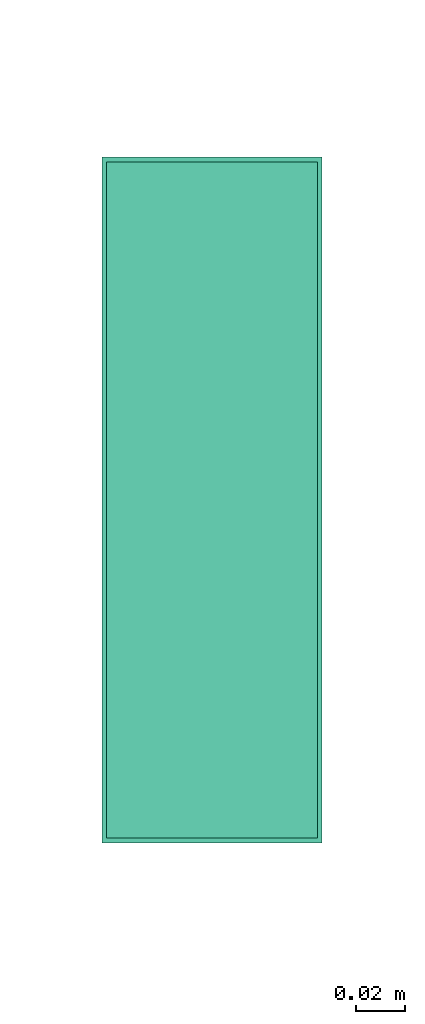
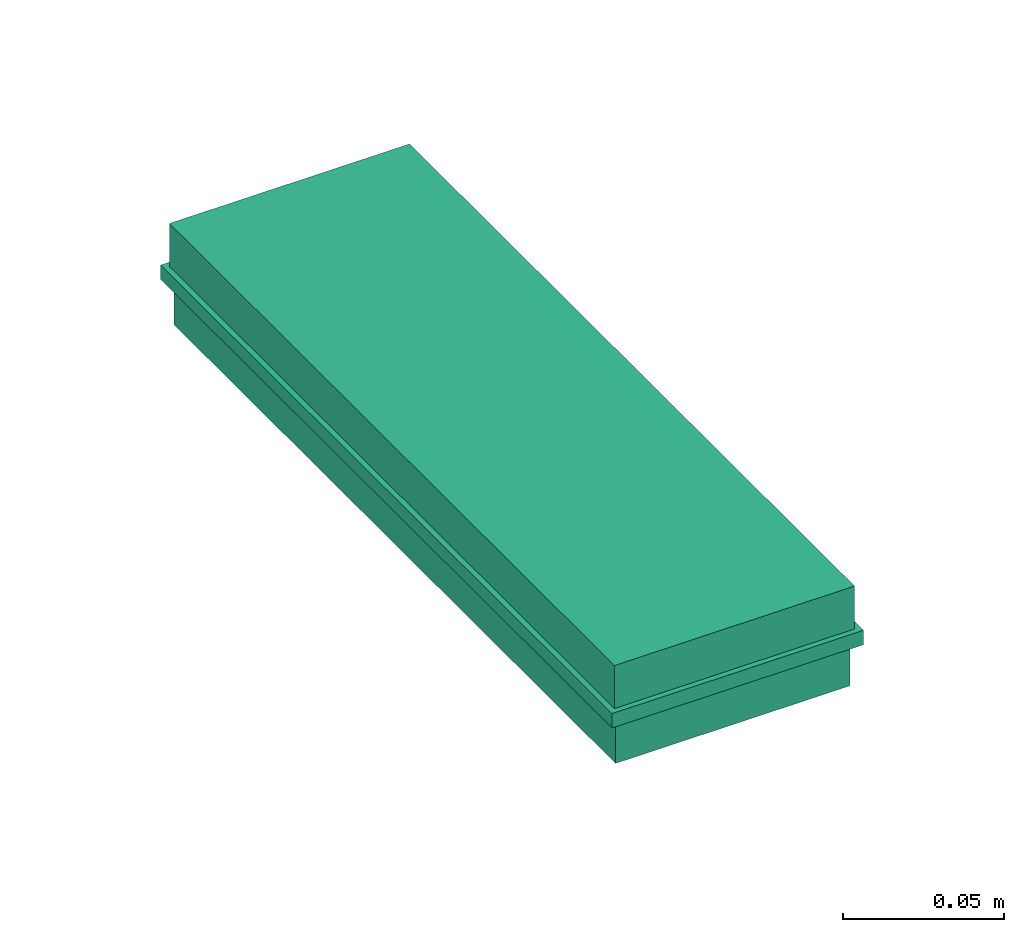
# One storey, part 84 of 146: 1 flow terminal.
"""IFC2X3 building model written with IfcOpenShell, lengths in metres."""

from ifc_helpers import new_model, entity, si_unit, converted_unit, derived_unit, direction, frame, origin, place, context, subcontext, project, spatial, face_set, surface_model, source, transform, mapped, material, material_list, type_object, type_shapes, element, save


model = new_model("IFC2X3")

# Units and contexts
model_context = context("Model", 3, precision=1e-05, world=origin(), true_north=direction((6.12303176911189e-17, 1.0)))
body_context = subcontext(model_context, "Body", "Model", "MODEL_VIEW")
ifc_project = project(units=[si_unit("LENGTHUNIT", "METRE"), si_unit("AREAUNIT", "SQUARE_METRE"), si_unit("VOLUMEUNIT", "CUBIC_METRE"), converted_unit("PLANEANGLEUNIT", "DEGREE", entity("IfcRatioMeasure", 0.0174532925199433), si_unit("PLANEANGLEUNIT", "RADIAN"), dimensions=[0, 0, 0, 0, 0, 0, 0]), si_unit("MASSUNIT", "GRAM", prefix="KILO"), derived_unit("MASSDENSITYUNIT", [(si_unit("MASSUNIT", "GRAM", prefix="KILO"), 1), (si_unit("LENGTHUNIT", "METRE"), -3)]), si_unit("TIMEUNIT", "SECOND"), si_unit("FREQUENCYUNIT", "HERTZ"), si_unit("THERMODYNAMICTEMPERATUREUNIT", "DEGREE_CELSIUS"), derived_unit("THERMALTRANSMITTANCEUNIT", [(si_unit("MASSUNIT", "GRAM", prefix="KILO"), 1), (si_unit("THERMODYNAMICTEMPERATUREUNIT", "KELVIN"), -1), (si_unit("TIMEUNIT", "SECOND"), -3)]), derived_unit("VOLUMETRICFLOWRATEUNIT", [(si_unit("LENGTHUNIT", "METRE"), 3), (si_unit("TIMEUNIT", "SECOND"), -1)]), si_unit("ELECTRICCURRENTUNIT", "AMPERE"), si_unit("ELECTRICVOLTAGEUNIT", "VOLT"), si_unit("POWERUNIT", "WATT"), si_unit("FORCEUNIT", "NEWTON"), si_unit("ILLUMINANCEUNIT", "LUX"), si_unit("LUMINOUSFLUXUNIT", "LUMEN"), si_unit("LUMINOUSINTENSITYUNIT", "CANDELA"), derived_unit("USERDEFINED", [(si_unit("MASSUNIT", "GRAM", prefix="KILO"), -1), (si_unit("LENGTHUNIT", "METRE"), -2), (si_unit("TIMEUNIT", "SECOND"), 3), (si_unit("LUMINOUSFLUXUNIT", "LUMEN"), 1)]), derived_unit("LINEARVELOCITYUNIT", [(si_unit("LENGTHUNIT", "METRE"), 1), (si_unit("TIMEUNIT", "SECOND"), -1)]), si_unit("PRESSUREUNIT", "PASCAL"), derived_unit("USERDEFINED", [(si_unit("LENGTHUNIT", "METRE"), -2), (si_unit("MASSUNIT", "GRAM", prefix="KILO"), 1), (si_unit("TIMEUNIT", "SECOND"), -2)])], contexts=[model_context])

# Site, building, storey
site_placement = place(None, origin())
site = spatial("IfcSite", under=ifc_project, at=site_placement, Name="Default", CompositionType="ELEMENT")
building_placement = place(site_placement, origin())
building = spatial("IfcBuilding", under=site, at=building_placement, CompositionType="ELEMENT")
storey_placement = place(building_placement, origin())
storey = spatial("IfcBuildingStorey", under=building, at=storey_placement, Name="S01", CompositionType="ELEMENT", Elevation=0.0)

# Flow terminal
ifc_material_1 = material(Name="Color RGB 225-225-149")
ifc_material_2 = material(Name="Color RGB 165-165-165")
ifc_material_list_1 = material_list([ifc_material_1, ifc_material_2])
ifc_material_list_2 = material_list([ifc_material_1, ifc_material_2])
light_fixture_type = type_object("IfcLightFixtureType", Name="BAEA Type 3", PredefinedType="NOTDEFINED", material=ifc_material_list_2)
shared_shape = source(origin(), body_context, "Body", "SurfaceModel", [
    surface_model("IfcFaceBasedSurfaceModel", [(0.0820000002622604, 0.0, 0.0350000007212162), (0.0800000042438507, -0.00141421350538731, 0.036414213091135), (0.0800000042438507, -0.00199999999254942, 0.0350000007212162), (0.0800000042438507, 0.0, 0.0369999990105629), (0.0800000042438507, 0.00141421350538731, 0.036414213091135), (0.0800000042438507, 0.00199999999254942, 0.0350000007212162), (0.0779999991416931, 0.0, 0.0350000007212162), (0.0800000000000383, 0.0, 0.0349999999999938), (0.0720000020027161, 0.0, 0.0350000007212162), (0.0700000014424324, -0.00141421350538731, 0.036414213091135), (0.0700000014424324, -0.00199999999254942, 0.0350000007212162), (0.0700000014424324, 0.0, 0.0369999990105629), (0.0700000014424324, 0.00141421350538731, 0.036414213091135), (0.0700000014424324, 0.00199999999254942, 0.0350000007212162), (0.0680000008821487, 0.0, 0.0350000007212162), (0.0700000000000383, 0.0, 0.034999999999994), (0.0619999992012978, 0.0, 0.0350000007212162), (0.0599999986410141, -0.00141421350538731, 0.036414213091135), (0.0599999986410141, -0.00199999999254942, 0.0350000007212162), (0.0599999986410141, 0.00141421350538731, 0.036414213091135), (0.0599999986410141, 0.0, 0.0369999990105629), (0.0599999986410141, 0.00199999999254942, 0.0350000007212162), (0.0579999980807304, 0.0, 0.0350000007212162), (0.0600000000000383, 0.0, 0.0349999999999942), (0.0520000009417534, 0.0, 0.0350000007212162), (0.0500000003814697, -0.00141421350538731, 0.036414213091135), (0.0500000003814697, -0.00199999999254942, 0.0350000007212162), (0.0500000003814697, 0.0, 0.0369999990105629), (0.0500000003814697, 0.00141421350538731, 0.036414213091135), (0.0500000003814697, 0.00199999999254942, 0.0350000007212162), (0.0479999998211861, 0.0, 0.0350000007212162), (0.0500000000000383, 0.0, 0.0349999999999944), (0.0219999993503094, 0.0, 0.0350000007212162), (0.0200000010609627, -0.00141421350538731, 0.036414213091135), (0.0200000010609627, -0.00199999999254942, 0.0350000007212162), (0.0200000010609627, 0.0, 0.0369999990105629), (0.0200000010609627, 0.00141421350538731, 0.036414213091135), (0.0200000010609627, 0.00199999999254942, 0.0350000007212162), (0.018000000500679, 0.0, 0.0350000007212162), (0.0200000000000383, 0.0, 0.034999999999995), (0.0419999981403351, 0.0, 0.0350000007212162), (0.0400000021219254, -0.00141421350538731, 0.036414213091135), (0.0400000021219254, -0.00199999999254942, 0.0350000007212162), (0.0400000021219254, 0.0, 0.0369999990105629), (0.0400000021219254, 0.00141421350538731, 0.036414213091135), (0.0400000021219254, 0.00199999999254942, 0.0350000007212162), (0.0379999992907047, 0.0, 0.0350000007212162), (0.0400000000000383, 0.0, 0.0349999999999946), (0.0319999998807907, 0.0, 0.0350000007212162), (0.0299999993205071, -0.00141421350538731, 0.036414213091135), (0.0299999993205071, -0.00199999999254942, 0.0350000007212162), (0.0299999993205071, 0.00141421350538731, 0.036414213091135), (0.0299999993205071, 0.0, 0.0369999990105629), (0.0299999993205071, 0.00199999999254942, 0.0350000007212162), (0.0280000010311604, 0.0, 0.0350000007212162), (0.0300000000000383, 0.0, 0.0349999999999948), (0.0119999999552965, 0.0, 0.0350000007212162), (0.0100000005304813, -0.00141421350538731, 0.036414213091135), (0.0100000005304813, -0.00199999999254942, 0.0350000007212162), (0.0100000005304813, 0.0, 0.0369999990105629), (0.0100000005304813, 0.00141421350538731, 0.036414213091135), (0.0100000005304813, 0.00199999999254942, 0.0350000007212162), (0.00799999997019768, 0.0, 0.0350000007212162), (0.0100000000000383, 0.0, 0.0349999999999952), (-0.0800000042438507, -0.00199999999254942, 0.0350000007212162), (-0.0800000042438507, -0.00141421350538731, 0.036414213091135), (-0.0820000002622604, 0.0, 0.0350000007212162), (-0.0800000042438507, 0.00141421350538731, 0.036414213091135), (-0.0809421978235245, 0.0, 0.0367641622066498), (-0.0800000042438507, 0.0, 0.0369999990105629), (-0.0800000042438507, 0.00199999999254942, 0.0350000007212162), (-0.0779999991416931, 0.0, 0.0350000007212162), (-0.0800000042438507, 0.000535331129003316, 0.0367782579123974), (-0.0800000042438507, -0.00177825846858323, 0.0355353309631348), (-0.0800000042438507, -0.000535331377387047, 0.0367782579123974), (-0.0799999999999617, 0.0, 0.0349999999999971), (-0.0700000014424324, -0.00199999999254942, 0.0350000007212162), (-0.0700000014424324, -0.00141421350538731, 0.036414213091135), (-0.0720000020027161, 0.0, 0.0350000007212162), (-0.0700000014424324, 0.00141421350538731, 0.036414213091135), (-0.0709421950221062, 0.0, 0.0367641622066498), (-0.0700000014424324, 0.0, 0.0369999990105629), (-0.0700000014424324, 0.00199999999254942, 0.0350000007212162), (-0.0680000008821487, 0.0, 0.0350000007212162), (-0.0700000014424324, 0.000535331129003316, 0.0367782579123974), (-0.0700000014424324, -0.00177825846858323, 0.0355353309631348), (-0.0700000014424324, -0.000535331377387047, 0.0367782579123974), (-0.0699999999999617, 0.0, 0.0349999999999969), (-0.0599999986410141, -0.00199999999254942, 0.0350000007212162), (-0.0599999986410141, -0.00141421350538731, 0.036414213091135), (-0.0619999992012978, 0.0, 0.0350000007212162), (-0.0599999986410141, 0.00141421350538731, 0.036414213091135), (-0.0609421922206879, 0.0, 0.0367641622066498), (-0.0599999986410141, 0.0, 0.0369999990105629), (-0.0599999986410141, 0.00199999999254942, 0.0350000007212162), (-0.0579999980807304, 0.0, 0.0350000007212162), (-0.0599999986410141, -0.00177825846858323, 0.0355353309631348), (-0.0599999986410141, 0.000535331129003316, 0.0367782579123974), (-0.0599999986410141, -0.000535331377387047, 0.0367782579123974), (-0.0599999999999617, 0.0, 0.0349999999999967), (-0.0500000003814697, -0.00199999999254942, 0.0350000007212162), (-0.0500000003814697, -0.00141421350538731, 0.036414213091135), (-0.0520000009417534, 0.0, 0.0350000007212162), (-0.0500000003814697, 0.00141421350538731, 0.036414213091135), (-0.0509421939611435, 0.0, 0.0367641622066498), (-0.0500000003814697, 0.0, 0.0369999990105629), (-0.0500000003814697, 0.00199999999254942, 0.0350000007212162), (-0.0479999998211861, 0.0, 0.0350000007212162), (-0.0500000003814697, 0.000535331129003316, 0.0367782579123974), (-0.0500000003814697, -0.00177825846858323, 0.0355353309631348), (-0.0500000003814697, -0.000535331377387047, 0.0367782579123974), (-0.0499999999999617, 0.0, 0.0349999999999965), (-0.0200000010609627, -0.00199999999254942, 0.0350000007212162), (-0.0200000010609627, -0.00141421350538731, 0.036414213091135), (-0.0219999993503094, 0.0, 0.0350000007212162), (-0.0200000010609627, 0.00141421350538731, 0.036414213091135), (-0.0209421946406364, 0.0, 0.0367641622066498), (-0.0200000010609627, 0.0, 0.0369999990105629), (-0.0200000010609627, 0.00199999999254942, 0.0350000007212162), (-0.018000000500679, 0.0, 0.0350000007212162), (-0.0200000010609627, 0.000535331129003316, 0.0367782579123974), (-0.0200000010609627, -0.00177825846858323, 0.0355353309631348), (-0.0200000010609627, -0.000535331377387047, 0.0367782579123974), (-0.0199999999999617, 0.0, 0.0349999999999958), (-0.0400000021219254, -0.00199999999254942, 0.0350000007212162), (-0.0400000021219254, -0.00141421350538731, 0.036414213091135), (-0.0419999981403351, 0.0, 0.0350000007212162), (-0.0400000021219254, 0.00141421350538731, 0.036414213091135), (-0.0409421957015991, 0.0, 0.0367641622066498), (-0.0400000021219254, 0.0, 0.0369999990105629), (-0.0400000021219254, 0.00199999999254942, 0.0350000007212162), (-0.0379999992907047, 0.0, 0.0350000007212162), (-0.0400000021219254, 0.000535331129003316, 0.0367782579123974), (-0.0400000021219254, -0.00177825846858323, 0.0355353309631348), (-0.0400000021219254, -0.000535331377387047, 0.0367782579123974), (-0.0399999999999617, 0.0, 0.0349999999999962), (-0.0299999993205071, -0.00199999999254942, 0.0350000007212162), (-0.0299999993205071, -0.00141421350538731, 0.036414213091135), (-0.0319999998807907, 0.0, 0.0350000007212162), (-0.0299999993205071, 0.00141421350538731, 0.036414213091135), (-0.0309421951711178, 0.0, 0.0367641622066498), (-0.0299999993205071, 0.0, 0.0369999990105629), (-0.0299999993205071, 0.00199999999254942, 0.0350000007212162), (-0.0280000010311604, 0.0, 0.0350000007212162), (-0.0299999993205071, -0.00177825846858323, 0.0355353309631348), (-0.0299999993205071, 0.000535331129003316, 0.0367782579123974), (-0.0299999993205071, -0.000535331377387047, 0.0367782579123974), (-0.0299999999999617, 0.0, 0.034999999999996), (-0.0100000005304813, -0.00199999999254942, 0.0350000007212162), (-0.0100000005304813, -0.00141421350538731, 0.036414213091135), (-0.0119999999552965, 0.0, 0.0350000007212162), (-0.0100000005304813, 0.00141421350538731, 0.036414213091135), (-0.0109421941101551, 0.0, 0.0367641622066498), (-0.0100000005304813, 0.0, 0.0369999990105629), (-0.0100000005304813, 0.00199999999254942, 0.0350000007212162), (-0.00799999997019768, 0.0, 0.0350000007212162), (-0.0100000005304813, 0.000535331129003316, 0.0367782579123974), (-0.0100000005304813, -0.00177825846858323, 0.0355353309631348), (-0.0100000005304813, -0.000535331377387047, 0.0367782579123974), (-0.00999999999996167, 0.0, 0.0349999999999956), (0.0, -0.00199999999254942, 0.0350000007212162), (0.0, -0.00141421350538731, 0.036414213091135), (-0.00199999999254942, 0.0, 0.0350000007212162), (0.0, 0.00141421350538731, 0.036414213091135), (-0.000942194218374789, 0.0, 0.0367641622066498), (0.0, 0.0, 0.0369999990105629), (0.0, 0.00199999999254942, 0.0350000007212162), (0.00199999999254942, 0.0, 0.0350000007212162), (0.0, -0.00177825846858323, 0.0355353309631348), (0.0, 0.000535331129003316, 0.0367782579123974), (0.0, -0.000535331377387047, 0.0367782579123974), (0.0, 0.0, 0.0349999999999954)], [face_set([[[0, 1, 2]], [[3, 1, 4]], [[5, 4, 0]], [[4, 1, 0]], [[6, 4, 5]], [[1, 4, 3]], [[2, 1, 6]], [[1, 4, 6]], [[5, 0, 2, 7]], [[2, 6, 5, 7]]]), face_set([[[8, 9, 10]], [[11, 9, 12]], [[13, 12, 8]], [[12, 9, 8]], [[14, 12, 13]], [[9, 12, 11]], [[10, 9, 14]], [[9, 12, 14]], [[13, 8, 10, 15]], [[10, 14, 13, 15]]]), face_set([[[16, 17, 18]], [[19, 17, 20]], [[21, 19, 16]], [[19, 17, 16]], [[22, 19, 21]], [[20, 19, 17]], [[18, 17, 22]], [[17, 19, 22]], [[21, 16, 18, 23]], [[18, 22, 21, 23]]]), face_set([[[24, 25, 26]], [[27, 25, 28]], [[29, 28, 24]], [[28, 25, 24]], [[30, 28, 29]], [[25, 28, 27]], [[26, 25, 30]], [[25, 28, 30]], [[29, 24, 26, 31]], [[26, 30, 29, 31]]]), face_set([[[32, 33, 34]], [[35, 33, 36]], [[37, 36, 32]], [[36, 33, 32]], [[38, 36, 37]], [[33, 36, 35]], [[34, 33, 38]], [[33, 36, 38]], [[37, 32, 34, 39]], [[34, 38, 37, 39]]]), face_set([[[40, 41, 42]], [[43, 41, 44]], [[45, 44, 40]], [[44, 41, 40]], [[46, 44, 45]], [[41, 44, 43]], [[42, 41, 46]], [[41, 44, 46]], [[45, 40, 42, 47]], [[42, 46, 45, 47]]]), face_set([[[48, 49, 50]], [[51, 49, 52]], [[53, 51, 48]], [[51, 49, 48]], [[54, 51, 53]], [[52, 51, 49]], [[50, 49, 54]], [[49, 51, 54]], [[53, 48, 50, 55]], [[50, 54, 53, 55]]]), face_set([[[56, 57, 58]], [[59, 57, 60]], [[61, 60, 56]], [[60, 57, 56]], [[62, 60, 61]], [[57, 60, 59]], [[58, 57, 62]], [[57, 60, 62]], [[61, 56, 58, 63]], [[58, 62, 61, 63]]]), face_set([[[64, 65, 66]], [[67, 66, 65]], [[68, 69, 67]], [[67, 70, 66]], [[68, 65, 67]], [[69, 68, 65]], [[71, 70, 67]], [[72, 67, 73, 65]], [[69, 72, 65, 74]], [[67, 73, 71]], [[73, 64, 71]], [[75, 64, 66, 70]], [[75, 70, 71, 64]]]), face_set([[[76, 77, 78]], [[79, 78, 77]], [[80, 81, 79]], [[79, 82, 78]], [[80, 77, 79]], [[81, 80, 77]], [[83, 82, 79]], [[84, 79, 85, 77]], [[81, 84, 77, 86]], [[79, 85, 83]], [[85, 76, 83]], [[87, 76, 78, 82]], [[87, 82, 83, 76]]]), face_set([[[88, 89, 90]], [[91, 90, 89]], [[92, 93, 91]], [[91, 94, 90]], [[92, 89, 91]], [[93, 92, 89]], [[95, 94, 91]], [[89, 96, 91, 97]], [[98, 89, 97, 93]], [[91, 96, 95]], [[96, 88, 95]], [[99, 88, 90, 94]], [[99, 94, 95, 88]]]), face_set([[[100, 101, 102]], [[103, 102, 101]], [[104, 105, 103]], [[103, 106, 102]], [[104, 101, 103]], [[105, 104, 101]], [[107, 106, 103]], [[108, 103, 109, 101]], [[105, 108, 101, 110]], [[103, 109, 107]], [[109, 100, 107]], [[111, 100, 102, 106]], [[111, 106, 107, 100]]]), face_set([[[112, 113, 114]], [[115, 114, 113]], [[116, 117, 115]], [[115, 118, 114]], [[116, 113, 115]], [[117, 116, 113]], [[119, 118, 115]], [[120, 115, 121, 113]], [[117, 120, 113, 122]], [[115, 121, 119]], [[121, 112, 119]], [[123, 112, 114, 118]], [[123, 118, 119, 112]]]), face_set([[[124, 125, 126]], [[127, 126, 125]], [[128, 129, 127]], [[127, 130, 126]], [[128, 125, 127]], [[129, 128, 125]], [[131, 130, 127]], [[132, 127, 133, 125]], [[129, 132, 125, 134]], [[127, 133, 131]], [[133, 124, 131]], [[135, 124, 126, 130]], [[135, 130, 131, 124]]]), face_set([[[136, 137, 138]], [[139, 138, 137]], [[140, 141, 139]], [[139, 142, 138]], [[140, 137, 139]], [[141, 140, 137]], [[143, 142, 139]], [[137, 144, 139, 145]], [[146, 137, 145, 141]], [[139, 144, 143]], [[144, 136, 143]], [[147, 136, 138, 142]], [[147, 142, 143, 136]]]), face_set([[[148, 149, 150]], [[151, 150, 149]], [[152, 153, 151]], [[151, 154, 150]], [[152, 149, 151]], [[153, 152, 149]], [[155, 154, 151]], [[156, 151, 157, 149]], [[153, 156, 149, 158]], [[151, 157, 155]], [[157, 148, 155]], [[159, 148, 150, 154]], [[159, 154, 155, 148]]]), face_set([[[160, 161, 162]], [[163, 162, 161]], [[164, 165, 163]], [[163, 166, 162]], [[164, 161, 163]], [[165, 164, 161]], [[167, 166, 163]], [[161, 168, 163, 169]], [[170, 161, 169, 165]], [[163, 168, 167]], [[168, 160, 167]], [[171, 160, 162, 166]], [[171, 166, 167, 160]]])]),
    surface_model("IfcFaceBasedSurfaceModel", [(-0.137999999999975, 0.0429999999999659, 0.0), (0.138000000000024, 0.042999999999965, 0.0), (0.138000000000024, -0.0430000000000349, 0.0), (-0.137999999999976, -0.0430000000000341, 0.0), (-0.137999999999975, 0.0429999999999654, 0.0162598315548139), (0.138000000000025, 0.0429999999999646, 0.0162598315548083), (0.138000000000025, -0.0430000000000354, 0.0162598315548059), (-0.137999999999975, -0.0430000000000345, 0.0162598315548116), (0.0855000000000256, 0.00499999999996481, 0.0349999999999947), (0.0867940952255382, 0.00482962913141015, 0.0349999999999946), (0.0880000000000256, 0.00433012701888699, 0.0349999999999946), (0.0890355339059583, 0.00353553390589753, 0.0349999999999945), (0.0898301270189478, 0.00249999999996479, 0.0349999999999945), (0.0903296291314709, 0.00129409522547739, 0.0349999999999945), (0.0905000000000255, 0.0, 0.0349999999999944), (0.0903296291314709, -0.00129409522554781, 0.0349999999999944), (0.0898301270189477, -0.0025000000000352, 0.0349999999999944), (0.0890355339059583, -0.00353553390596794, 0.0349999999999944), (0.0880000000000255, -0.00433012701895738, 0.0349999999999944), (0.0867940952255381, -0.00482962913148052, 0.0349999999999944), (0.0855000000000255, -0.00500000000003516, 0.0349999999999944), (-0.0854999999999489, -0.00500000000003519, 0.0349999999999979), (-0.0867940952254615, -0.00482962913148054, 0.0349999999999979), (-0.0879999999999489, -0.00433012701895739, 0.034999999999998), (-0.0890355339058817, -0.00353553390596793, 0.034999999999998), (-0.0898301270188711, -0.0025000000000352, 0.0349999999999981), (-0.0903296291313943, -0.0012940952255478, 0.0349999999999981), (-0.0904999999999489, 0.0, 0.0349999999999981), (-0.0903296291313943, 0.0012940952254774, 0.0349999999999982), (-0.0898301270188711, 0.0024999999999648, 0.0349999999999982), (-0.0890355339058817, 0.00353553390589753, 0.0349999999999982), (-0.0879999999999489, 0.00433012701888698, 0.0349999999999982), (-0.0867940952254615, 0.00482962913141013, 0.0349999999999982), (-0.085499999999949, 0.00499999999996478, 0.0349999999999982), (0.0855000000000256, -0.00500000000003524, 0.037999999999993), (-0.0854999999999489, -0.00500000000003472, 0.0379999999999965), (-0.0854999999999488, 0.00499999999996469, 0.0379999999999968), (0.0855000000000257, 0.00499999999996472, 0.0379999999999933), (-0.136999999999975, 0.0419999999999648, 0.0379999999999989), (0.137000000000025, 0.041999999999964, 0.0379999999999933), (0.137000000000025, -0.042000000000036, 0.0379999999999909), (-0.136999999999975, -0.0420000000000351, 0.0379999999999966), (0.0867940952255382, -0.0048296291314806, 0.037999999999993), (0.0880000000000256, -0.00433012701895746, 0.037999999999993), (0.0890355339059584, -0.00353553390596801, 0.037999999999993), (0.0898301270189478, -0.00250000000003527, 0.037999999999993), (0.090329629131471, -0.00129409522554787, 0.037999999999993), (0.0905000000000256, 0.0, 0.0379999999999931), (0.090329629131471, 0.00129409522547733, 0.0379999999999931), (0.0898301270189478, 0.00249999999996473, 0.0379999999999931), (0.0890355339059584, 0.00353553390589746, 0.0379999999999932), (0.0880000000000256, 0.00433012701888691, 0.0379999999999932), (0.0867940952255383, 0.00482962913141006, 0.0379999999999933), (-0.0867940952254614, 0.00482962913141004, 0.0379999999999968), (-0.0879999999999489, 0.0043301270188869, 0.0379999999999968), (-0.0890355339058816, 0.00353553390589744, 0.0379999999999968), (-0.0898301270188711, 0.0024999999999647, 0.0379999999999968), (-0.0903296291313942, 0.00129409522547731, 0.0379999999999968), (-0.0904999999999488, 0.0, 0.0379999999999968), (-0.0903296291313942, -0.0012940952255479, 0.0379999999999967), (-0.0898301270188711, -0.00250000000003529, 0.0379999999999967), (-0.0890355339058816, -0.00353553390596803, 0.0379999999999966), (-0.0879999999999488, -0.00433012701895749, 0.0379999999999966), (-0.0867940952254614, -0.00482962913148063, 0.0379999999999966), (-0.00799999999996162, 0.0169999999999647, 0.0379999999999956), (0.00800000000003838, 0.0169999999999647, 0.0379999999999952), (0.0080000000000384, 0.0229999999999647, 0.0379999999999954), (-0.00799999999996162, 0.0229999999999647, 0.0379999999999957), (-0.136999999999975, 0.0419999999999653, 0.0217057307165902), (0.137000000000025, 0.0419999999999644, 0.0217057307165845), (0.137000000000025, -0.0420000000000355, 0.0217057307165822), (-0.136999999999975, -0.0420000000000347, 0.0217057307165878), (-0.00799999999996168, 0.0229999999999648, 0.0349999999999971), (0.00800000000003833, 0.0229999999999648, 0.0349999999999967), (0.00800000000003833, 0.0169999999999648, 0.0349999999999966), (-0.00799999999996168, 0.0169999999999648, 0.0349999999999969), (-0.139999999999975, -0.0450000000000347, 0.0217057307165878), (-0.139999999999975, 0.0449999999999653, 0.0217057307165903), (0.140000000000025, 0.0449999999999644, 0.0217057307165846), (0.140000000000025, -0.0450000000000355, 0.0217057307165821), (-0.139999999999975, -0.0450000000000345, 0.0162598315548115), (-0.139999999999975, 0.0449999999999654, 0.016259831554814), (0.140000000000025, 0.0449999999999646, 0.0162598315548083), (0.140000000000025, -0.0450000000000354, 0.0162598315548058)], [face_set([[[0, 1, 2, 3]], [[4, 5, 6, 7]], [[7, 4, 0, 3]], [[6, 7, 3, 2]], [[5, 6, 2, 1]], [[4, 5, 1, 0]]]), face_set([[[8, 9, 10, 11, 12, 13, 14, 15, 16, 17, 18, 19, 20, 21, 22, 23, 24, 25, 26, 27, 28, 29, 30, 31, 32, 33]], [[20, 34, 35, 21]], [[33, 36, 37, 8]], [[38, 39, 40, 41], [34, 42, 43, 44, 45, 46, 47, 48, 49, 50, 51, 52, 37, 36, 53, 54, 55, 56, 57, 58, 59, 60, 61, 62, 63, 35], [64, 65, 66, 67]], [[68, 69, 70, 71]], [[41, 38, 68, 71]], [[40, 41, 71, 70]], [[39, 40, 70, 69]], [[38, 39, 69, 68]], [[36, 33, 32, 53]], [[53, 32, 31, 54]], [[55, 30, 29, 56]], [[54, 31, 30, 55]], [[56, 29, 28, 57]], [[27, 58, 57, 28]], [[58, 27, 26, 59]], [[59, 26, 25, 60]], [[61, 24, 23, 62]], [[60, 25, 24, 61]], [[62, 23, 22, 63]], [[21, 35, 63, 22]], [[34, 20, 19, 42]], [[42, 19, 18, 43]], [[44, 17, 16, 45]], [[43, 18, 17, 44]], [[45, 16, 15, 46]], [[14, 47, 46, 15]], [[47, 14, 13, 48]], [[48, 13, 12, 49]], [[50, 11, 10, 51]], [[49, 12, 11, 50]], [[51, 10, 9, 52]], [[8, 37, 52, 9]], [[72, 73, 74, 75]], [[75, 64, 67, 72]], [[74, 75, 64, 65]], [[73, 66, 65, 74]], [[72, 67, 66, 73]]]), face_set([[[76, 77, 78, 79]], [[80, 81, 82, 83]], [[79, 76, 80, 83]], [[78, 79, 83, 82]], [[77, 78, 82, 81]], [[76, 77, 81, 80]]])]),
])
type_shapes(light_fixture_type, [shared_shape])
flow_terminal_placement = place(building_placement, frame((57.9133872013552, -189.208069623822, 3.37), z_axis=(0.0, 0.0, -1.0), x_axis=(0.0, -1.0, 0.0)))
element("IfcFlowTerminal", 1, at=flow_terminal_placement, inside=storey, type_object=light_fixture_type, material=ifc_material_list_1, Name="II_PREF_BAEA:BAEA Type 3", ObjectType="II_PREF_BAEA:BAEA Type 3", context=body_context, shape_type="MappedRepresentation", body=[
    mapped(shared_shape, transform((0.0, 0.0, 0.0), scale=1.0)),
])

save(model, "model.ifc")
